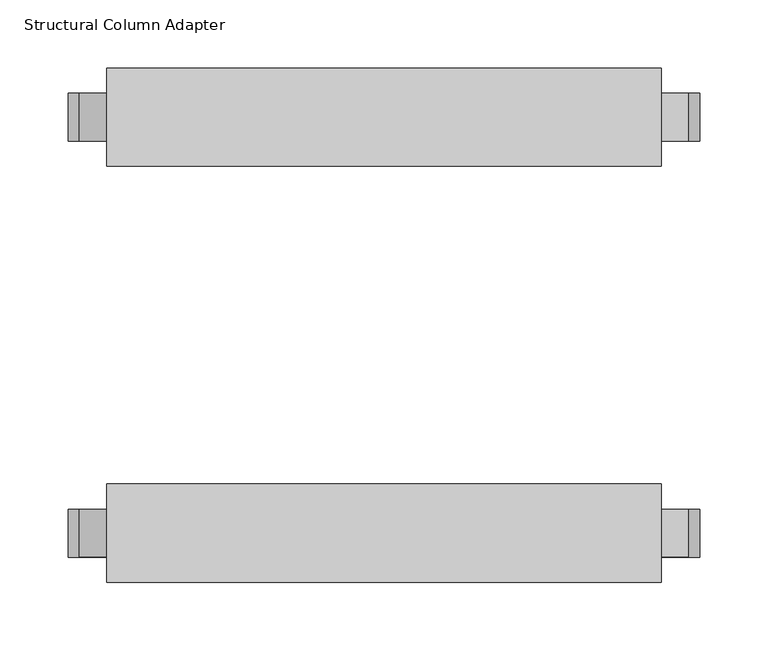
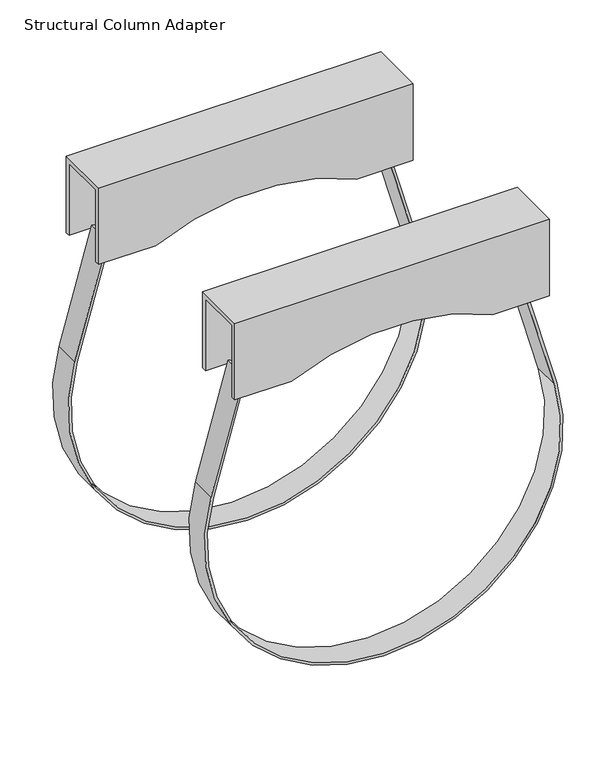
"""IFC4 building model written with IfcOpenShell, lengths in millimetres: proxy geometry, Adapter-Column_Strap-Chief-Flat_Panel_Mount : Structural Column Adapter."""

from ifc_helpers import new_model, si_unit, point, frame, frame_2d, origin, place, context, project, spatial, polyline, circle_curve, trimmed, segment, composite_curve, outline, extrude, source, transform, mapped, element, save
from ifc_brep_helpers import plane_surface, revolved_surface, advanced_brep


def structural_column_adapter_5b7bb809(model_context):
    return source(origin(), model_context, "Body", "SolidModel", [
        advanced_brep(
        [(-129.6654451, 116.459, -28.956), (129.6654451, 116.459, -28.956), (203.2, 116.459, -28.956), (203.2, 116.459, 75.184), (-203.2, 116.459, 75.184), (-203.2, 116.459, -28.956), (-129.6654451, 188.341, -28.956), (-203.2, 188.341, -28.956), (-203.2, 188.341, 75.184), (203.2, 188.341, 75.184), (203.2, 188.341, -28.956), (129.6654451, 188.341, -28.956), (-129.6654451, 122.809, -28.956), (129.6654451, 122.809, -28.956), (129.6654451, 181.991, -28.956), (-129.6654451, 181.991, -28.956), (203.2, 122.809, -28.956), (203.2, 181.991, -28.956), (203.2, 122.809, 68.834), (203.2, 181.991, 68.834), (-203.2, 181.991, -28.956), (-203.2, 181.991, 68.834), (-203.2, 122.809, 68.834), (-203.2, 122.809, -28.956)],
        [
            (0, 1, circle_curve(frame((0.0, 116.459, -304.8), z_axis=(0.0, 1.0, 0.0), x_axis=(1.0, 0.0, 0.0)), 304.8)),
            (1, 2),
            (2, 3),
            (3, 4),
            (4, 5),
            (5, 0),
            (6, 7),
            (7, 8),
            (8, 9),
            (9, 10),
            (10, 11),
            (11, 6, circle_curve(frame((0.0, 188.341, -304.8), z_axis=(0.0, -1.0, 0.0), x_axis=(1.0, 0.0, 0.0)), 304.8)),
            (0, 12),
            (12, 13, circle_curve(frame((0.0, 122.809, -304.8), z_axis=(0.0, 1.0, 0.0), x_axis=(1.0, 0.0, 0.0)), 304.8)),
            (13, 1),
            (11, 14),
            (14, 15, circle_curve(frame((0.0, 181.991, -304.8), z_axis=(0.0, -1.0, 0.0), x_axis=(1.0, 0.0, 0.0)), 304.8)),
            (15, 6),
            (13, 16),
            (16, 2),
            (10, 17),
            (17, 14),
            (16, 18),
            (18, 19),
            (19, 17),
            (9, 3),
            (8, 4),
            (7, 20),
            (20, 21),
            (21, 22),
            (22, 23),
            (23, 5),
            (23, 12),
            (15, 20),
            (22, 18),
            (19, 21),
        ],
        [
            plane_surface(frame((304.8, 116.459, -304.8), z_axis=(0.0, -1.0, 0.0), x_axis=(0.0, 0.0, -1.0))),
            plane_surface(frame((304.8, 188.341, -304.8), z_axis=(0.0, 1.0, 0.0), x_axis=(0.0, 0.0, 1.0))),
            revolved_surface(polyline([(304.8, 122.809, -304.8), (304.8, 116.459, -304.8)]), (0.0, 188.341, -304.8), (0.0, 1.0, 0.0)),
            revolved_surface(polyline([(304.8, 188.341, -304.8), (304.8, 181.991, -304.8)]), (0.0, 188.341, -304.8), (0.0, 1.0, 0.0)),
            plane_surface(frame((129.6654451, 116.459, -28.956), z_axis=(0.0, 0.0, -1.0), x_axis=(0.0, 1.0, 0.0))),
            plane_surface(frame((203.2, 116.459, -28.956), z_axis=(1.0, 0.0, 0.0), x_axis=(0.0, 1.0, 0.0))),
            plane_surface(frame((203.2, 116.459, 75.184), z_axis=(0.0, 0.0, 1.0), x_axis=(0.0, 1.0, 0.0))),
            plane_surface(frame((-203.2, 116.459, 75.184), z_axis=(-1.0, 0.0, 0.0), x_axis=(0.0, 1.0, 0.0))),
            plane_surface(frame((-203.2, 116.459, -28.956), z_axis=(-1.447746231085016e-12, 0.0, -1.0), x_axis=(0.0, 1.0, 0.0))),
            plane_surface(frame((-203.2, 122.809, 68.834), z_axis=(0.0, 1.0, 0.0), x_axis=(-1.0, 0.0, 0.0))),
            plane_surface(frame((-203.2, 181.991, 68.834), z_axis=(0.0, -1.0, 0.0), x_axis=(1.0, 0.0, 0.0))),
            plane_surface(frame((203.2, 122.809, 68.834), z_axis=(0.0, 0.0, -1.0), x_axis=(0.0, 1.0, 0.0))),
        ],
        [
            (0, [[1, 2, 3, 4, 5, 6]]),
            (1, [[7, 8, 9, 10, 11, 12]]),
            (2, [[-1, 13, 14, 15]]),
            (3, [[-12, 16, 17, 18]]),
            (4, [[-2, -15, 19, 20]]),
            (4, [[-11, 21, 22, -16]]),
            (5, [[-3, -20, 23, 24, 25, -21, -10, 26]]),
            (6, [[-4, -26, -9, 27]]),
            (7, [[-5, -27, -8, 28, 29, 30, 31, 32]]),
            (8, [[-6, -32, 33, -13]]),
            (8, [[-7, -18, 34, -28]]),
            (9, [[35, -23, -19, -14, -33, -31]]),
            (10, [[36, -29, -34, -17, -22, -25]]),
            (11, [[-35, -30, -36, -24]]),
        ],
    ),
        advanced_brep(
        [(-129.6654451, -188.341, -28.956), (129.6654451, -188.341, -28.956), (203.2, -188.341, -28.956), (203.2, -188.341, 75.184), (-203.2, -188.341, 75.184), (-203.2, -188.341, -28.956), (-129.6654451, -116.459, -28.956), (-203.2, -116.459, -28.956), (-203.2, -116.459, 75.184), (203.2, -116.459, 75.184), (203.2, -116.459, -28.956), (129.6654451, -116.459, -28.956), (-129.6654451, -181.991, -28.956), (129.6654451, -181.991, -28.956), (129.6654451, -122.809, -28.956), (-129.6654451, -122.809, -28.956), (203.2, -181.991, -28.956), (203.2, -122.809, -28.956), (203.2, -181.991, 68.834), (203.2, -122.809, 68.834), (-203.2, -122.809, -28.956), (-203.2, -122.809, 68.834), (-203.2, -181.991, 68.834), (-203.2, -181.991, -28.956)],
        [
            (0, 1, circle_curve(frame((0.0, -188.341, -304.8), z_axis=(0.0, 1.0, 0.0), x_axis=(1.0, 0.0, 0.0)), 304.8)),
            (1, 2),
            (2, 3),
            (3, 4),
            (4, 5),
            (5, 0),
            (6, 7),
            (7, 8),
            (8, 9),
            (9, 10),
            (10, 11),
            (11, 6, circle_curve(frame((0.0, -116.459, -304.8), z_axis=(0.0, -1.0, 0.0), x_axis=(1.0, 0.0, 0.0)), 304.8)),
            (0, 12),
            (12, 13, circle_curve(frame((0.0, -181.991, -304.8), z_axis=(0.0, 1.0, 0.0), x_axis=(1.0, 0.0, 0.0)), 304.8)),
            (13, 1),
            (11, 14),
            (14, 15, circle_curve(frame((0.0, -122.809, -304.8), z_axis=(0.0, -1.0, 0.0), x_axis=(1.0, 0.0, 0.0)), 304.8)),
            (15, 6),
            (13, 16),
            (16, 2),
            (10, 17),
            (17, 14),
            (16, 18),
            (18, 19),
            (19, 17),
            (9, 3),
            (8, 4),
            (7, 20),
            (20, 21),
            (21, 22),
            (22, 23),
            (23, 5),
            (23, 12),
            (15, 20),
            (22, 18),
            (19, 21),
        ],
        [
            plane_surface(frame((304.8, -188.341, -304.8), z_axis=(0.0, -1.0, 0.0), x_axis=(0.0, 0.0, -1.0))),
            plane_surface(frame((304.8, -116.459, -304.8), z_axis=(0.0, 1.0, 0.0), x_axis=(0.0, 0.0, 1.0))),
            revolved_surface(polyline([(304.8, -181.991, -304.8), (304.8, -188.341, -304.8)]), (0.0, -116.459, -304.8), (0.0, 1.0, 0.0)),
            revolved_surface(polyline([(304.8, -116.459, -304.8), (304.8, -122.809, -304.8)]), (0.0, -116.459, -304.8), (0.0, 1.0, 0.0)),
            plane_surface(frame((129.6654451, -188.341, -28.956), z_axis=(0.0, 0.0, -1.0), x_axis=(0.0, 1.0, 0.0))),
            plane_surface(frame((203.2, -188.341, -28.956), z_axis=(1.0, 0.0, 0.0), x_axis=(0.0, 1.0, 0.0))),
            plane_surface(frame((203.2, -188.341, 75.184), z_axis=(0.0, 0.0, 1.0), x_axis=(0.0, 1.0, 0.0))),
            plane_surface(frame((-203.2, -188.341, 75.184), z_axis=(-1.0, 0.0, 0.0), x_axis=(0.0, 1.0, 0.0))),
            plane_surface(frame((-203.2, -188.341, -28.956), z_axis=(-1.447746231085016e-12, 0.0, -1.0), x_axis=(0.0, 1.0, 0.0))),
            plane_surface(frame((-203.2, -181.991, 68.834), z_axis=(0.0, 1.0, 0.0), x_axis=(-1.0, 0.0, 0.0))),
            plane_surface(frame((-203.2, -122.809, 68.834), z_axis=(0.0, -1.0, 0.0), x_axis=(1.0, 0.0, 0.0))),
            plane_surface(frame((203.2, -181.991, 68.834), z_axis=(0.0, 0.0, -1.0), x_axis=(0.0, 1.0, 0.0))),
        ],
        [
            (0, [[1, 2, 3, 4, 5, 6]]),
            (1, [[7, 8, 9, 10, 11, 12]]),
            (2, [[-1, 13, 14, 15]]),
            (3, [[-12, 16, 17, 18]]),
            (4, [[-2, -15, 19, 20]]),
            (4, [[-11, 21, 22, -16]]),
            (5, [[-3, -20, 23, 24, 25, -21, -10, 26]]),
            (6, [[-4, -26, -9, 27]]),
            (7, [[-5, -27, -8, 28, 29, 30, 31, 32]]),
            (8, [[-6, -32, 33, -13]]),
            (8, [[-7, -18, 34, -28]]),
            (9, [[35, -23, -19, -14, -33, -31]]),
            (10, [[36, -29, -34, -17, -22, -25]]),
            (11, [[-35, -30, -36, -24]]),
        ],
    ),
        extrude(outline(composite_curve([segment(polyline([(-16.256, -177.8), (-15.397371, -180.8566945), (-165.920082, -223.1386979)]), True, "CONTINUOUS"), segment(trimmed(circle_curve(frame_2d((-228.6, 0.0)), 231.775), [point((-165.920082, -223.1386979))], [point((-165.920082, 223.1386979))], False, "CARTESIAN"), True, "CONTINUOUS"), segment(polyline([(-165.920082, 223.1386979), (-15.397371, 180.8566945), (-16.256, 177.8), (-166.778711, 220.0820034)]), True, "CONTINUOUS"), segment(trimmed(circle_curve(frame_2d((-228.6, 0.0)), 228.6), [point((-166.778711, 220.0820034))], [point((-166.778711, -220.0820034))], True, "CARTESIAN"), True, "CONTINUOUS"), segment(polyline([(-166.778711, -220.0820034), (-16.256, -177.8)]), True, "CONTINUOUS")], self_intersect=False)), frame((0.0, 134.874, 0.0), z_axis=(0.0, 1.0, 0.0), x_axis=(0.0, 0.0, 1.0)), (0.0, 0.0, 1.0), 35.052),
        extrude(outline(composite_curve([segment(polyline([(-16.256, -177.8), (-15.397371, -180.8566945), (-165.920082, -223.1386979)]), True, "CONTINUOUS"), segment(trimmed(circle_curve(frame_2d((-228.6, 0.0)), 231.775), [point((-165.920082, -223.1386979))], [point((-165.920082, 223.1386979))], False, "CARTESIAN"), True, "CONTINUOUS"), segment(polyline([(-165.920082, 223.1386979), (-15.397371, 180.8566945), (-16.256, 177.8), (-166.778711, 220.0820034)]), True, "CONTINUOUS"), segment(trimmed(circle_curve(frame_2d((-228.6, 0.0)), 228.6), [point((-166.778711, 220.0820034))], [point((-166.778711, -220.0820034))], True, "CARTESIAN"), True, "CONTINUOUS"), segment(polyline([(-166.778711, -220.0820034), (-16.256, -177.8)]), True, "CONTINUOUS")], self_intersect=False)), frame((0.0, -169.926, 0.0), z_axis=(0.0, 1.0, 0.0), x_axis=(0.0, 0.0, 1.0)), (0.0, 0.0, 1.0), 35.052),
    ])


if __name__ == "__main__":
    model = new_model("IFC4")
    model_context = context("Model", 3, world=origin())
    ifc_project = project(units=[si_unit("LENGTHUNIT", "METRE", prefix="MILLI")], contexts=[model_context])
    site = spatial("IfcSite", under=ifc_project)
    building = spatial("IfcBuilding", under=site)
    placement = place(None, origin())
    structural_column_adapter_shape = structural_column_adapter_5b7bb809(model_context)
    element("IfcBuildingElementProxy", 1, Name="Adapter-Column_Strap-Chief-Flat_Panel_Mount : Structural Column Adapter", ObjectType="Adapter-Column_Strap-Chief-Flat_Panel_Mount : Structural Column Adapter", at=placement, inside=building, context=model_context, shape_type="MappedRepresentation", body=[
        mapped(structural_column_adapter_shape, transform((0.0, 0.0, 0.0), x_axis=(1.0, 0.0, 0.0), y_axis=(0.0, 1.0, 0.0), z_axis=(0.0, 0.0, 1.0))),
    ])
    save(model, "model.ifc")
